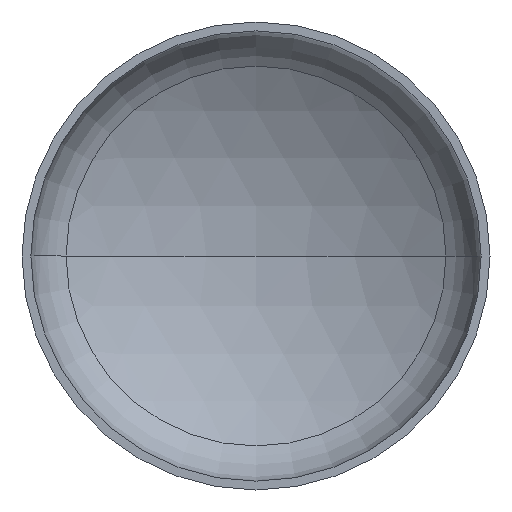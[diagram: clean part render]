
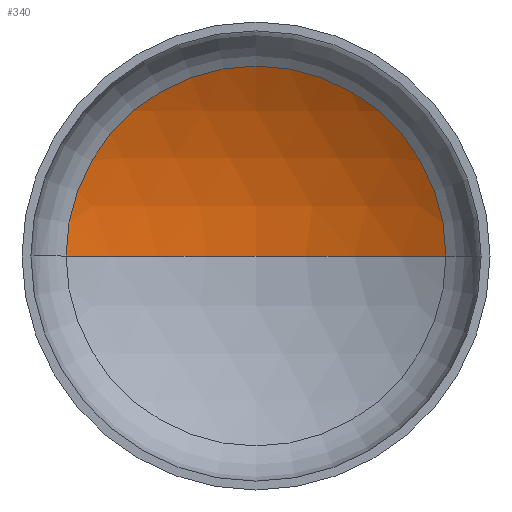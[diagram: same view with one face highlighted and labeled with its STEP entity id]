
A CAD part, front view. The second image highlights one B-rep face of the part: STEP entity #340.
In plain terms, the highlighted spherical face has radius 1520 mm.
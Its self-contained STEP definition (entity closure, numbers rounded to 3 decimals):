
#7 = DIRECTION ( 'NONE',  ( 1., 0., 0. ) ) ;
#15 = EDGE_LOOP ( 'NONE', ( #113, #73, #54 ) ) ;
#19 = AXIS2_PLACEMENT_3D ( 'NONE', #175, #140, #173 ) ;
#39 = AXIS2_PLACEMENT_3D ( 'NONE', #232, #228, #229 ) ;
#42 = AXIS2_PLACEMENT_3D ( 'NONE', #201, #156, #403 ) ;
#45 = AXIS2_PLACEMENT_3D ( 'NONE', #347, #207, #7 ) ;
#54 = ORIENTED_EDGE ( 'NONE', *, *, #122, .T. ) ;
#73 = ORIENTED_EDGE ( 'NONE', *, *, #142, .T. ) ;
#113 = ORIENTED_EDGE ( 'NONE', *, *, #150, .F. ) ;
#122 = EDGE_CURVE ( 'NONE', #392, #130, #261, .T. ) ;
#130 = VERTEX_POINT ( 'NONE', #200 ) ;
#140 = DIRECTION ( 'NONE',  ( 0., 0., -1. ) ) ;
#142 = EDGE_CURVE ( 'NONE', #346, #392, #320, .T. ) ;
#150 = EDGE_CURVE ( 'NONE', #346, #130, #193, .T. ) ;
#156 = DIRECTION ( 'NONE',  ( 0., 0., -1. ) ) ;
#168 = FACE_OUTER_BOUND ( 'NONE', #15, .T. ) ;
#170 = CARTESIAN_POINT ( 'NONE',  ( 0., 570.036, 0. ) ) ;
#173 = DIRECTION ( 'NONE',  ( -1., 0., 0. ) ) ;
#175 = CARTESIAN_POINT ( 'NONE',  ( 0., -949.964, 0. ) ) ;
#191 = CARTESIAN_POINT ( 'NONE',  ( 771.122, 359.91, 0. ) ) ;
#193 = CIRCLE ( 'NONE', #39, 1520. ) ;
#200 = CARTESIAN_POINT ( 'NONE',  ( -771.122, 359.91, 0. ) ) ;
#201 = CARTESIAN_POINT ( 'NONE',  ( 0., -949.964, 0. ) ) ;
#207 = DIRECTION ( 'NONE',  ( 0., -1., 0. ) ) ;
#228 = DIRECTION ( 'NONE',  ( 0., 0., 1. ) ) ;
#229 = DIRECTION ( 'NONE',  ( 1., 0., 0. ) ) ;
#232 = CARTESIAN_POINT ( 'NONE',  ( 0., -949.964, 0. ) ) ;
#261 = CIRCLE ( 'NONE', #45, 771.122 ) ;
#284 = SPHERICAL_SURFACE ( 'NONE', #19, 1520. ) ;
#320 = CIRCLE ( 'NONE', #42, 1520. ) ;
#340 = ADVANCED_FACE ( 'NONE', ( #168 ), #284, .F. ) ;
#346 = VERTEX_POINT ( 'NONE', #170 ) ;
#347 = CARTESIAN_POINT ( 'NONE',  ( 0., 359.91, 0. ) ) ;
#392 = VERTEX_POINT ( 'NONE', #191 ) ;
#403 = DIRECTION ( 'NONE',  ( -1., 0., 0. ) ) ;
